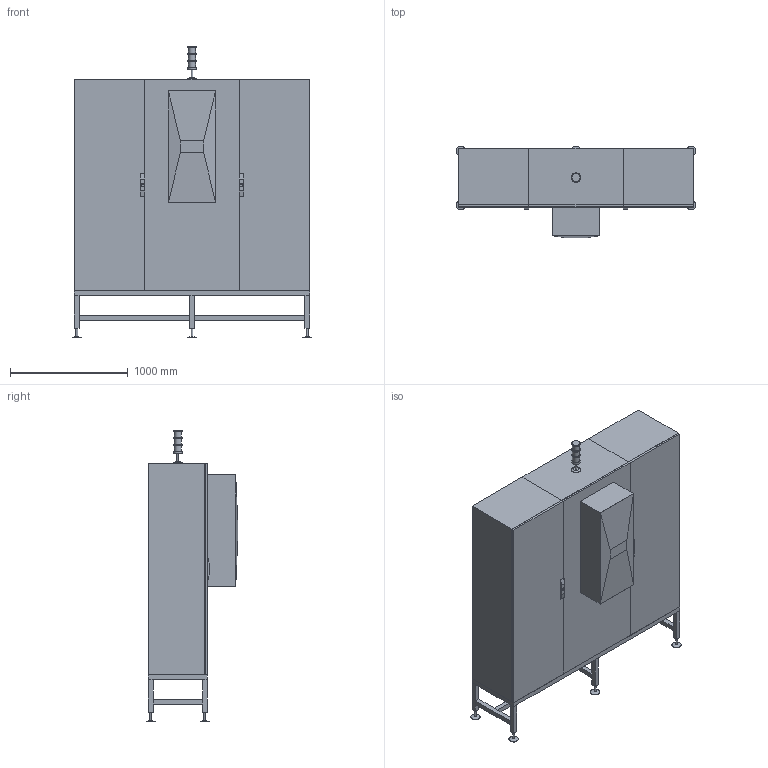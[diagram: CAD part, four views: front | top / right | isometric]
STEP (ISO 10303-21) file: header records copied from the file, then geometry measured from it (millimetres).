
FILE_DESCRIPTION(('FreeCAD Model'),'2;1');
FILE_NAME('/home/martin/Documents/ARMARIOS/3D/003.step', '2022-06-26T06:51:13',('FreeCAD'),('FreeCAD'), 'Open CASCADE STEP processor 7.3','FreeCAD','Unknown');
FILE_SCHEMA(('AUTOMOTIVE_DESIGN { 1 0 10303 214 1 1 1 1 }'));
Length unit declared in the file: millimetre
Products named in the file (12): Open CASCADE STEP translator 7.3 5; Open CASCADE STEP translator 7.3 5.1; Open CASCADE STEP translator 7.3 5.2; Open CASCADE STEP translator 7.3 5.3; Open CASCADE STEP translator 7.3 5.4; Open CASCADE STEP translator 7.3 5.5; Open CASCADE STEP translator 7.3 5.6; Open CASCADE STEP translator 7.3 5.7; Open CASCADE STEP translator 7.3 5.8; Open CASCADE STEP translator 7.3 5.9; Open CASCADE STEP translator 7.3 5.10; Open CASCADE STEP translator 7.3 5.11
Assembly tree (11 placements, depth 2):
  Open CASCADE STEP translator 7.3 5
    Open CASCADE STEP translator 7.3 5.1
    Open CASCADE STEP translator 7.3 5.2
    Open CASCADE STEP translator 7.3 5.3
    Open CASCADE STEP translator 7.3 5.4
    Open CASCADE STEP translator 7.3 5.5
    Open CASCADE STEP translator 7.3 5.6
    Open CASCADE STEP translator 7.3 5.7
    Open CASCADE STEP translator 7.3 5.8
    Open CASCADE STEP translator 7.3 5.9
    Open CASCADE STEP translator 7.3 5.10
    Open CASCADE STEP translator 7.3 5.11
Bounding box: 2040 x 780 x 2480 mm (x, y, z)
Volume: 1904468161.9 mm3; surface area: 24913560.7 mm2
Topology: 11 solids, 11 shells, 215 faces, 445 edges, 265 vertices
Faces by surface type: plane 185, cylinder 23, cone 7
Full cylindrical faces by diameter (mm): 16 x7, 30 x2, 60 x3, 70 x4, 80 x7
Entity records: 11481 total; most frequent: CARTESIAN_POINT 1853, DIRECTION 1826, LINE 1222, VECTOR 1222, ORIENTED_EDGE 890, PCURVE 890, DEFINITIONAL_REPRESENTATION 890, EDGE_CURVE 445
